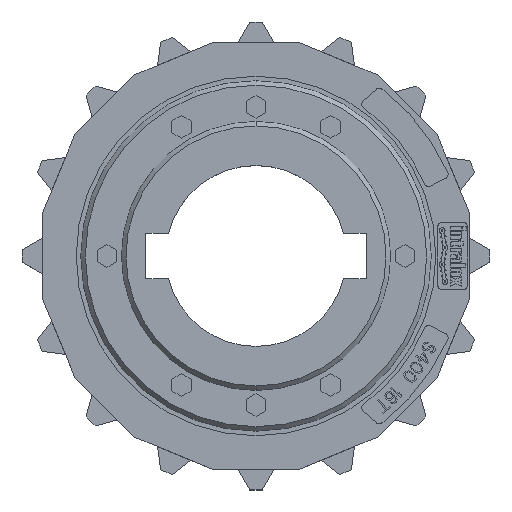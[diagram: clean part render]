
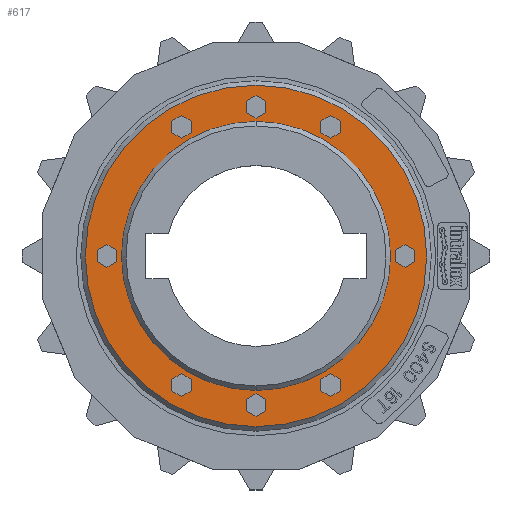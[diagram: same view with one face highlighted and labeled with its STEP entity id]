
A CAD part, top view. The second image highlights one B-rep face of the part: STEP entity #617.
In plain terms, the highlighted planar face has unit normal (0, 0, 1) as drawn and (0, 1, 0) by its records, which use the part's own axes.
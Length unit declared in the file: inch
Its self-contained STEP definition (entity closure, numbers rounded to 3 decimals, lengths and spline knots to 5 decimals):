
#5=CARTESIAN_POINT('',(0.,0.43,0.));
#6=DIRECTION('',(0.,-1.,0.));
#7=DIRECTION('',(1.,0.,0.));
#8=AXIS2_PLACEMENT_3D('',#5,#6,#7);
#10=CARTESIAN_POINT('',(0.,0.43,0.));
#11=DIRECTION('',(0.,-1.,0.));
#12=DIRECTION('',(-1.,0.,0.));
#13=AXIS2_PLACEMENT_3D('',#10,#11,#12);
#15=CARTESIAN_POINT('',(2.85572,0.43,-1.64875));
#16=DIRECTION('',(0.,1.,0.));
#17=DIRECTION('',(-1.,0.,0.));
#18=AXIS2_PLACEMENT_3D('',#15,#16,#17);
#20=CARTESIAN_POINT('',(2.85572,0.43,-1.64875));
#21=DIRECTION('',(0.,1.,0.));
#22=DIRECTION('',(1.,0.,0.));
#23=AXIS2_PLACEMENT_3D('',#20,#21,#22);
#25=CARTESIAN_POINT('',(0.,0.43,-3.2975));
#26=DIRECTION('',(0.,1.,0.));
#27=DIRECTION('',(-1.,0.,0.));
#28=AXIS2_PLACEMENT_3D('',#25,#26,#27);
#30=CARTESIAN_POINT('',(0.,0.43,-3.2975));
#31=DIRECTION('',(0.,1.,0.));
#32=DIRECTION('',(1.,0.,0.));
#33=AXIS2_PLACEMENT_3D('',#30,#31,#32);
#35=CARTESIAN_POINT('',(-2.85572,0.43,-1.64875));
#36=DIRECTION('',(0.,1.,0.));
#37=DIRECTION('',(-1.,0.,0.));
#38=AXIS2_PLACEMENT_3D('',#35,#36,#37);
#40=CARTESIAN_POINT('',(-2.85572,0.43,-1.64875));
#41=DIRECTION('',(0.,1.,0.));
#42=DIRECTION('',(1.,0.,0.));
#43=AXIS2_PLACEMENT_3D('',#40,#41,#42);
#45=CARTESIAN_POINT('',(-3.2975,0.43,0.));
#46=DIRECTION('',(0.,1.,0.));
#47=DIRECTION('',(-1.,0.,0.));
#48=AXIS2_PLACEMENT_3D('',#45,#46,#47);
#50=CARTESIAN_POINT('',(-3.2975,0.43,0.));
#51=DIRECTION('',(0.,1.,0.));
#52=DIRECTION('',(1.,0.,0.));
#53=AXIS2_PLACEMENT_3D('',#50,#51,#52);
#55=CARTESIAN_POINT('',(-2.85572,0.43,1.64875));
#56=DIRECTION('',(0.,1.,0.));
#57=DIRECTION('',(-1.,0.,0.));
#58=AXIS2_PLACEMENT_3D('',#55,#56,#57);
#60=CARTESIAN_POINT('',(-2.85572,0.43,1.64875));
#61=DIRECTION('',(0.,1.,0.));
#62=DIRECTION('',(1.,0.,0.));
#63=AXIS2_PLACEMENT_3D('',#60,#61,#62);
#65=CARTESIAN_POINT('',(0.,0.43,3.2975));
#66=DIRECTION('',(0.,1.,0.));
#67=DIRECTION('',(-1.,0.,0.));
#68=AXIS2_PLACEMENT_3D('',#65,#66,#67);
#70=CARTESIAN_POINT('',(0.,0.43,3.2975));
#71=DIRECTION('',(0.,1.,0.));
#72=DIRECTION('',(1.,0.,0.));
#73=AXIS2_PLACEMENT_3D('',#70,#71,#72);
#75=CARTESIAN_POINT('',(2.85572,0.43,1.64875));
#76=DIRECTION('',(0.,1.,0.));
#77=DIRECTION('',(-1.,0.,0.));
#78=AXIS2_PLACEMENT_3D('',#75,#76,#77);
#80=CARTESIAN_POINT('',(2.85572,0.43,1.64875));
#81=DIRECTION('',(0.,1.,0.));
#82=DIRECTION('',(1.,0.,0.));
#83=AXIS2_PLACEMENT_3D('',#80,#81,#82);
#85=CARTESIAN_POINT('',(3.2975,0.43,0.));
#86=DIRECTION('',(0.,1.,0.));
#87=DIRECTION('',(-1.,0.,0.));
#88=AXIS2_PLACEMENT_3D('',#85,#86,#87);
#90=CARTESIAN_POINT('',(3.2975,0.43,0.));
#91=DIRECTION('',(0.,1.,0.));
#92=DIRECTION('',(1.,0.,0.));
#93=AXIS2_PLACEMENT_3D('',#90,#91,#92);
#353=CARTESIAN_POINT('',(0.,0.43,0.));
#354=DIRECTION('',(0.,1.,0.));
#355=DIRECTION('',(1.,0.,0.));
#356=AXIS2_PLACEMENT_3D('',#353,#354,#355);
#363=CARTESIAN_POINT('',(0.,0.43,0.));
#364=DIRECTION('',(0.,1.,0.));
#365=DIRECTION('',(-1.,0.,0.));
#366=AXIS2_PLACEMENT_3D('',#363,#364,#365);
#421=CARTESIAN_POINT('',(2.975,0.43,0.));
#422=CARTESIAN_POINT('',(-2.975,0.43,0.));
#423=VERTEX_POINT('',#421);
#424=VERTEX_POINT('',#422);
#457=CARTESIAN_POINT('',(2.72872,0.43,-1.64875));
#458=CARTESIAN_POINT('',(2.98272,0.43,-1.64875));
#459=VERTEX_POINT('',#457);
#460=VERTEX_POINT('',#458);
#461=CARTESIAN_POINT('',(-0.127,0.43,-3.2975));
#462=CARTESIAN_POINT('',(0.127,0.43,-3.2975));
#463=VERTEX_POINT('',#461);
#464=VERTEX_POINT('',#462);
#465=CARTESIAN_POINT('',(-2.98272,0.43,-1.64875));
#466=CARTESIAN_POINT('',(-2.72872,0.43,-1.64875));
#467=VERTEX_POINT('',#465);
#468=VERTEX_POINT('',#466);
#469=CARTESIAN_POINT('',(-3.4245,0.43,0.));
#470=CARTESIAN_POINT('',(-3.1705,0.43,0.));
#471=VERTEX_POINT('',#469);
#472=VERTEX_POINT('',#470);
#473=CARTESIAN_POINT('',(-2.98272,0.43,1.64875));
#474=CARTESIAN_POINT('',(-2.72872,0.43,1.64875));
#475=VERTEX_POINT('',#473);
#476=VERTEX_POINT('',#474);
#477=CARTESIAN_POINT('',(-0.127,0.43,3.2975));
#478=CARTESIAN_POINT('',(0.127,0.43,3.2975));
#479=VERTEX_POINT('',#477);
#480=VERTEX_POINT('',#478);
#481=CARTESIAN_POINT('',(2.72872,0.43,1.64875));
#482=CARTESIAN_POINT('',(2.98272,0.43,1.64875));
#483=VERTEX_POINT('',#481);
#484=VERTEX_POINT('',#482);
#485=CARTESIAN_POINT('',(3.1705,0.43,0.));
#486=CARTESIAN_POINT('',(3.4245,0.43,0.));
#487=VERTEX_POINT('',#485);
#488=VERTEX_POINT('',#486);
#497=CARTESIAN_POINT('',(3.775,0.43,0.));
#498=CARTESIAN_POINT('',(-3.775,0.43,0.));
#499=VERTEX_POINT('',#497);
#500=VERTEX_POINT('',#498);
#553=CARTESIAN_POINT('',(0.,0.43,0.));
#554=DIRECTION('',(0.,1.,0.));
#555=DIRECTION('',(1.,0.,0.));
#556=AXIS2_PLACEMENT_3D('',#553,#554,#555);
#557=PLANE('',#556);
#559=ORIENTED_EDGE('',*,*,#558,.F.);
#561=ORIENTED_EDGE('',*,*,#560,.F.);
#562=EDGE_LOOP('',(#559,#561));
#563=FACE_OUTER_BOUND('',#562,.F.);
#565=ORIENTED_EDGE('',*,*,#564,.F.);
#567=ORIENTED_EDGE('',*,*,#566,.F.);
#568=EDGE_LOOP('',(#565,#567));
#569=FACE_BOUND('',#568,.F.);
#570=ORIENTED_EDGE('',*,*,#542,.T.);
#572=ORIENTED_EDGE('',*,*,#571,.T.);
#573=EDGE_LOOP('',(#570,#572));
#574=FACE_BOUND('',#573,.F.);
#576=ORIENTED_EDGE('',*,*,#575,.T.);
#578=ORIENTED_EDGE('',*,*,#577,.T.);
#579=EDGE_LOOP('',(#576,#578));
#580=FACE_BOUND('',#579,.F.);
#582=ORIENTED_EDGE('',*,*,#581,.T.);
#584=ORIENTED_EDGE('',*,*,#583,.T.);
#585=EDGE_LOOP('',(#582,#584));
#586=FACE_BOUND('',#585,.F.);
#588=ORIENTED_EDGE('',*,*,#587,.T.);
#590=ORIENTED_EDGE('',*,*,#589,.T.);
#591=EDGE_LOOP('',(#588,#590));
#592=FACE_BOUND('',#591,.F.);
#594=ORIENTED_EDGE('',*,*,#593,.T.);
#596=ORIENTED_EDGE('',*,*,#595,.T.);
#597=EDGE_LOOP('',(#594,#596));
#598=FACE_BOUND('',#597,.F.);
#600=ORIENTED_EDGE('',*,*,#599,.T.);
#602=ORIENTED_EDGE('',*,*,#601,.T.);
#603=EDGE_LOOP('',(#600,#602));
#604=FACE_BOUND('',#603,.F.);
#606=ORIENTED_EDGE('',*,*,#605,.T.);
#608=ORIENTED_EDGE('',*,*,#607,.T.);
#609=EDGE_LOOP('',(#606,#608));
#610=FACE_BOUND('',#609,.F.);
#612=ORIENTED_EDGE('',*,*,#611,.T.);
#614=ORIENTED_EDGE('',*,*,#613,.T.);
#615=EDGE_LOOP('',(#612,#614));
#616=FACE_BOUND('',#615,.F.);
#617=ADVANCED_FACE('',(#563,#569,#574,#580,#586,#592,#598,#604,#610,#616),#557,
.T.);
#9=CIRCLE('',#8,2.975);
#14=CIRCLE('',#13,2.975);
#19=CIRCLE('',#18,0.127);
#24=CIRCLE('',#23,0.127);
#29=CIRCLE('',#28,0.127);
#34=CIRCLE('',#33,0.127);
#39=CIRCLE('',#38,0.127);
#44=CIRCLE('',#43,0.127);
#49=CIRCLE('',#48,0.127);
#54=CIRCLE('',#53,0.127);
#59=CIRCLE('',#58,0.127);
#64=CIRCLE('',#63,0.127);
#69=CIRCLE('',#68,0.127);
#74=CIRCLE('',#73,0.127);
#79=CIRCLE('',#78,0.127);
#84=CIRCLE('',#83,0.127);
#89=CIRCLE('',#88,0.127);
#94=CIRCLE('',#93,0.127);
#357=CIRCLE('',#356,3.775);
#367=CIRCLE('',#366,3.775);
#542=EDGE_CURVE('',#459,#460,#19,.T.);
#558=EDGE_CURVE('',#499,#500,#357,.T.);
#560=EDGE_CURVE('',#500,#499,#367,.T.);
#564=EDGE_CURVE('',#423,#424,#9,.T.);
#566=EDGE_CURVE('',#424,#423,#14,.T.);
#571=EDGE_CURVE('',#460,#459,#24,.T.);
#575=EDGE_CURVE('',#463,#464,#29,.T.);
#577=EDGE_CURVE('',#464,#463,#34,.T.);
#581=EDGE_CURVE('',#467,#468,#39,.T.);
#583=EDGE_CURVE('',#468,#467,#44,.T.);
#587=EDGE_CURVE('',#471,#472,#49,.T.);
#589=EDGE_CURVE('',#472,#471,#54,.T.);
#593=EDGE_CURVE('',#475,#476,#59,.T.);
#595=EDGE_CURVE('',#476,#475,#64,.T.);
#599=EDGE_CURVE('',#479,#480,#69,.T.);
#601=EDGE_CURVE('',#480,#479,#74,.T.);
#605=EDGE_CURVE('',#483,#484,#79,.T.);
#607=EDGE_CURVE('',#484,#483,#84,.T.);
#611=EDGE_CURVE('',#487,#488,#89,.T.);
#613=EDGE_CURVE('',#488,#487,#94,.T.);
